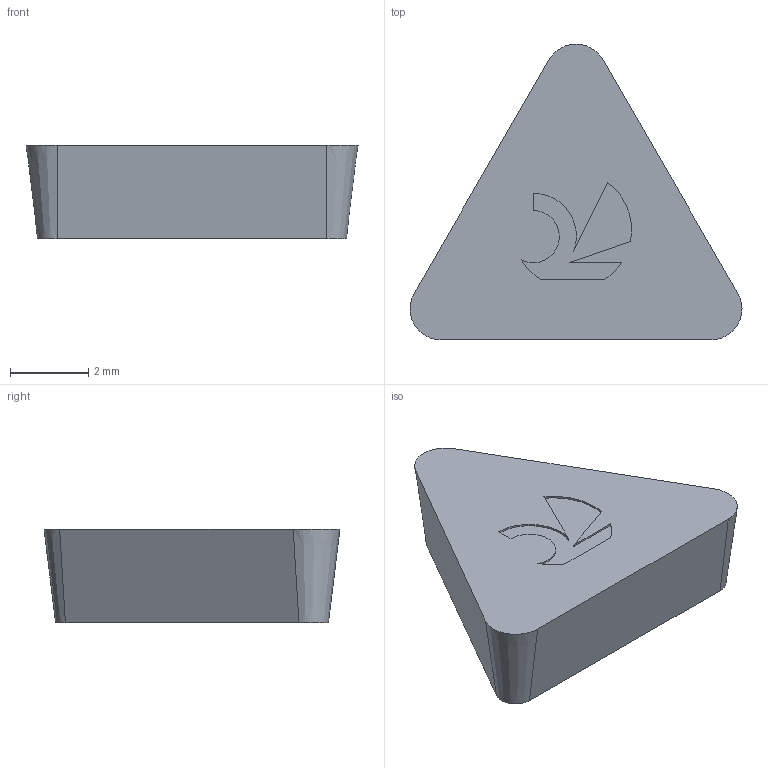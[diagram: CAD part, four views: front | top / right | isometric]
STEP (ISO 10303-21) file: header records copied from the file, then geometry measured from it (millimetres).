
FILE_DESCRIPTION(('no description'),'unknown implementation level');
FILE_NAME('solid3IvBIS2ZxHDAQIHy8yviPP6wgzc_1.STP',' ',('CIMSOURCE GmbH'),('CADClick - KiM GmbH - www.kimweb.de'),'unknown preprocess','ACIS','unknown authorization');
FILE_SCHEMA(('automotive_design'));
Length unit declared in the file: millimetre
Products named in the file (1): CUT
Bounding box: 8.46 x 7.54 x 2.38 mm (x, y, z)
Volume: 83.5 mm3; surface area: 130.3 mm2
Topology: 1 solids, 1 shells, 20 faces, 51 edges, 34 vertices
Faces by surface type: plane 11, cylinder 6, cone 3
Entity records: 1232 total; most frequent: DIRECTION 115, CARTESIAN_POINT 108, STYLED_ITEM 106, PRESENTATION_STYLE_ASSIGNMENT 106, COLOUR_RGB 106, ORIENTED_EDGE 102, EDGE_CURVE 51, CURVE_STYLE 51
